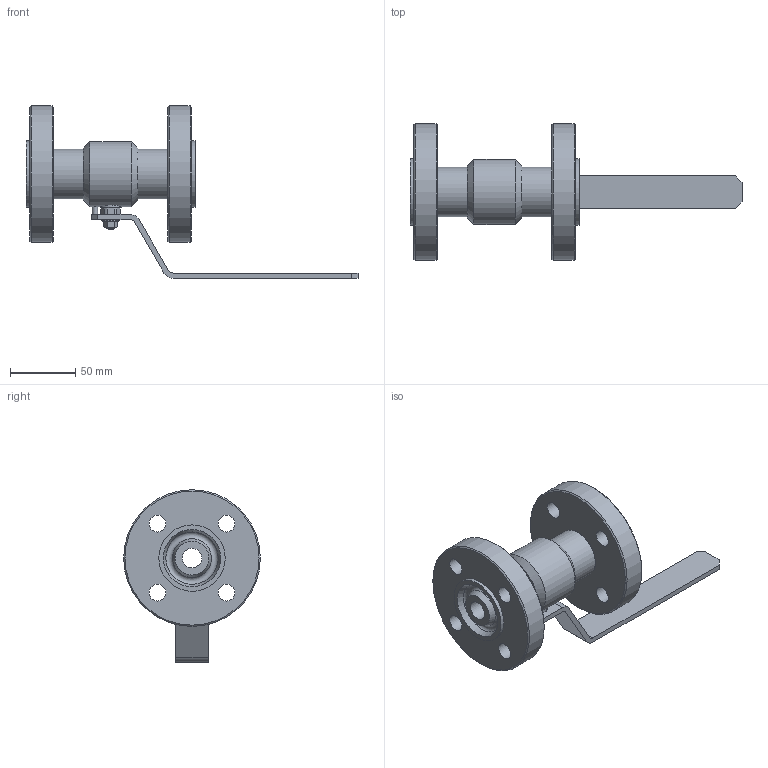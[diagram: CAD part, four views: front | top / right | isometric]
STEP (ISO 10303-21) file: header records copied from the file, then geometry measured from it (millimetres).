
FILE_DESCRIPTION(('STEP AP203'), '1');
FILE_NAME('ZARDP 015.063.27.P.stp', '2013-12-05T09:07:40', ('User'), ('Computer'), 'ASCON STEP Converter 1.3', 'Kompas 3D', '');
FILE_SCHEMA(('CONFIG_CONTROL_DESIGN','SUPPORT_RESOURCE_SCHEMA'));
Length unit declared in the file: millimetre
Products named in the file (1): 71
Bounding box: 255 x 105 x 132.5 mm (x, y, z)
Volume: 416245 mm3; surface area: 87005.2 mm2
Topology: 1 solids, 5 shells, 169 faces, 390 edges, 240 vertices
Faces by surface type: plane 88, cylinder 46, cone 30, torus 4, bspline 1
Full cylindrical faces by diameter (mm): 4 x2, 6 x2, 8.673 x1, 9 x1, 10 x1, 10.1 x1, 13 x8, 14.2 x1, 15 x2, 15.8 x1, 16 x3, 31.4 x1, 38 x4, 50 x1, 51 x2, 105 x2
Entity records: 5831 total; most frequent: CARTESIAN_POINT 1775, DIRECTION 869, ORIENTED_EDGE 778, EDGE_CURVE 389, AXIS2_PLACEMENT_3D 336, VERTEX_POINT 240, EDGE_LOOP 213, LINE 197
